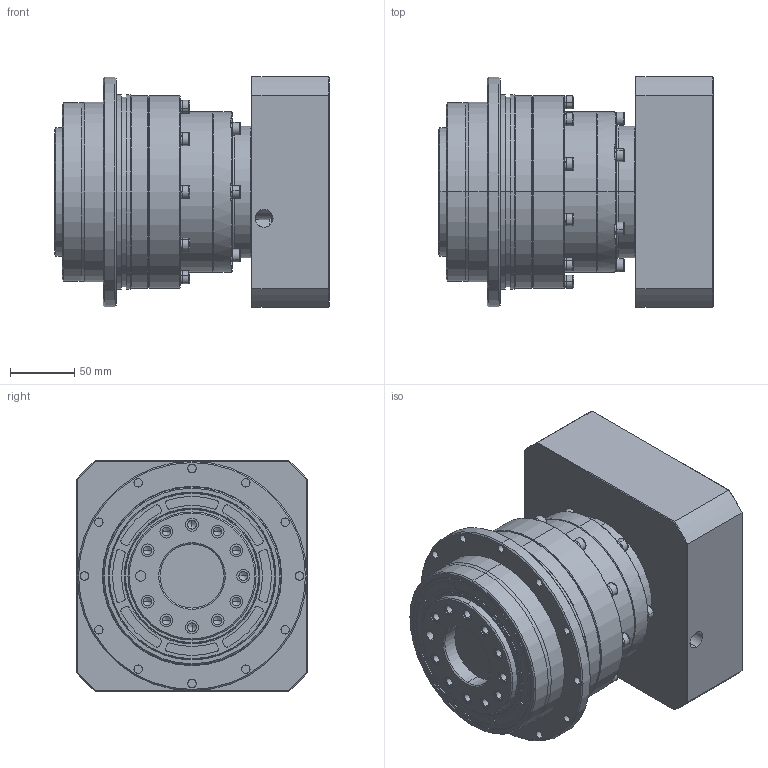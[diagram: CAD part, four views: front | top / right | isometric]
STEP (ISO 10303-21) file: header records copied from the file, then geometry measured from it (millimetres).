
FILE_DESCRIPTION (( 'STEP AP214' ), '1' );
FILE_NAME ('VRT-140-L2-P1 35-114.3-200-M12.STEP', '2023-08-16T02:10:55', ( '微软用户' ), ( '微软中国' ), 'SwSTEP 2.0', 'SolidWorks 2018', '' );
FILE_SCHEMA (( 'AUTOMOTIVE_DESIGN' ));
Length unit declared in the file: millimetre
Products named in the file (12): 一级齿圈VRT-140外形图; 萇儂楊擘 VRT-140 D114.3-M12-200F180H61; VRT-140-L2-P1 35-114.3-200-M12; hexagon socket head cap screws gb_GB_FASTENER_SCREWS_HSHCS M8X25-N; hexagon socket head cap screws gb_GB_FASTENER_SCREWS_HSHCS M6X20-N; 笢潔楊擘 VRT-140 俋倛芞; 一级整体太阳轮带夹套外形图 VRT-140-D35; hexagon socket head cap screws gb_GB_FASTENER_SCREWS_HSHCS M6X25-N; spring lock washers--normal type gb_GB_FASTENER_WASHER_SW 6; 二级齿圈VRT-140外形图; hexagon socket head cap screws gb_GB_FASTENER_SCREWS_HSHCS M6X35-N; hex socket set screws with flat point gb_GB_FASTENER_SCREWS_HSFP M16X16-N
Assembly tree (51 placements, depth 2):
  VRT-140-L2-P1 35-114.3-200-M12
    一级齿圈VRT-140外形图
    hex socket set screws with flat point gb_GB_FASTENER_SCREWS_HSFP M16X16-N
    二级齿圈VRT-140外形图
    spring lock washers--normal type gb_GB_FASTENER_WASHER_SW 6  x22
    hexagon socket head cap screws gb_GB_FASTENER_SCREWS_HSHCS M6X35-N  x10
    笢潔楊擘 VRT-140 俋倛芞
    hexagon socket head cap screws gb_GB_FASTENER_SCREWS_HSHCS M6X25-N  x6
    萇儂楊擘 VRT-140 D114.3-M12-200F180H61
    hexagon socket head cap screws gb_GB_FASTENER_SCREWS_HSHCS M6X20-N  x6
    hexagon socket head cap screws gb_GB_FASTENER_SCREWS_HSHCS M8X25-N
    一级整体太阳轮带夹套外形图 VRT-140-D35
Bounding box: 214.5 x 180 x 180 mm (x, y, z)
Volume: 3691924.8 mm3; surface area: 381183.9 mm2
Topology: 52 solids, 53 shells, 1471 faces, 3575 edges, 2206 vertices
Faces by surface type: plane 601, cylinder 559, cone 263, bspline 48
Entity records: 24910 total; most frequent: CARTESIAN_POINT 4877, DIRECTION 4403, ORIENTED_EDGE 3826, EDGE_CURVE 1913, AXIS2_PLACEMENT_3D 1769, VERTEX_POINT 1233, EDGE_LOOP 948, CIRCLE 939
